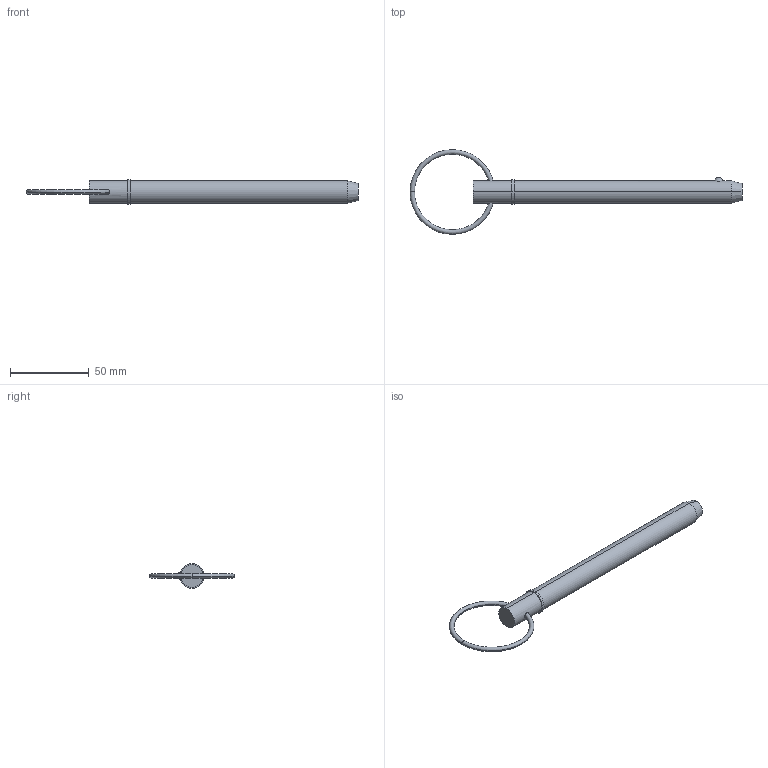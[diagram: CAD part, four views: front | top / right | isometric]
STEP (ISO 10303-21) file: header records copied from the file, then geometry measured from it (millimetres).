
FILE_DESCRIPTION (( 'STEP AP203' ), '1' );
FILE_NAME ('33014.W5650.step', '2024-11-04T08:32:37', ( '' ), ( '' ), 'SwSTEP 2.0', 'SolidWorks 2019', '' );
FILE_SCHEMA (( 'CONFIG_CONTROL_DESIGN' ));
Length unit declared in the file: millimetre
Products named in the file (3): 33014.W5650; Part2_33014.W5650; Part1_33014.W5650
Assembly tree (2 placements, depth 2):
  33014.W5650
    Part1_33014.W5650
    Part2_33014.W5650
Bounding box: 210.36 x 53.66 x 15.72 mm (x, y, z)
Volume: 28001.2 mm3; surface area: 9522.7 mm2
Topology: 2 solids, 2 shells, 22 faces, 43 edges, 26 vertices
Faces by surface type: torus 8, cylinder 6, plane 4, sphere 2, cone 2
Entity records: 1039 total; most frequent: CARTESIAN_POINT 262, DIRECTION 120, ORIENTED_EDGE 86, AXIS2_PLACEMENT_3D 56, EDGE_CURVE 43, CIRCLE 29, EDGE_LOOP 27, PERSON_AND_ORGANIZATION 26
